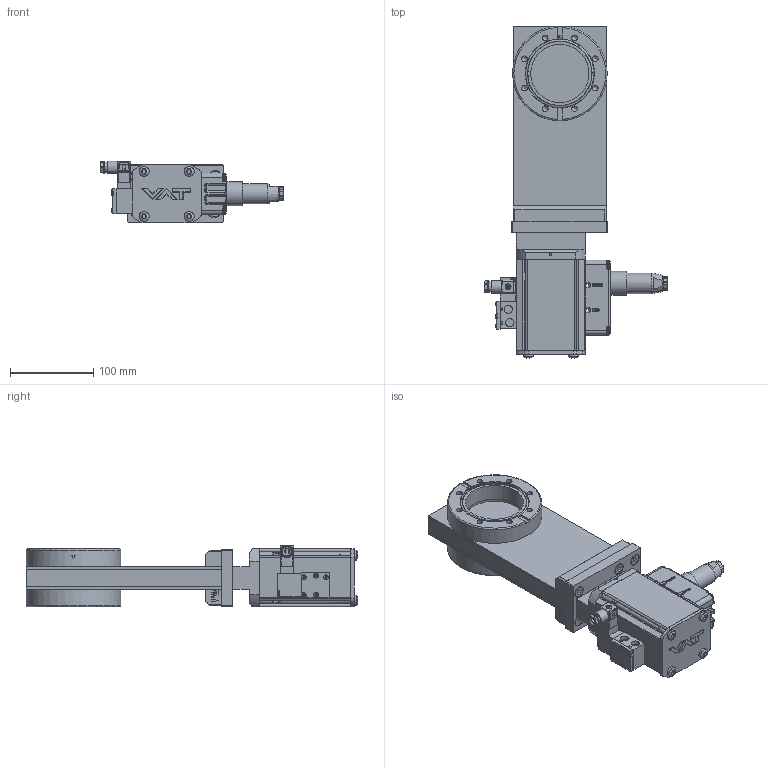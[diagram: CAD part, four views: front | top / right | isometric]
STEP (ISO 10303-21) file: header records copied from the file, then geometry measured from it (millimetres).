
FILE_DESCRIPTION(/* description */ (''),/* implementation_level */ '2;1');
FILE_NAME(/* name */ '1191763328_203.stp',/* time_stamp */ '2021-11-16T07:45:40+01:00',/* author */ (''),/* organization */ (''),/* preprocessor_version */ 'ST-DEVELOPER v16.7',/* originating_system */ 'SIEMENS PLM Software NX 1915',/* authorisation */ '');
FILE_SCHEMA (('AP203_CONFIGURATION_CONTROLLED_3D_DESIGN_OF_MECHANICAL_PARTS_AND_ASSEMBLIES_MIM_LF { 1 0 10303 403 2 1 2}'));
Products named in the file (38): 441451_30286ID; 21436-01.1_30359ID; 21437-01.1_30369ID; 21438-01.1; 441451_30283ID; 21437-01.1_30396ID; 21436-01.1_30257ID; 982213; 467882; 437235; 21450-01.1_30385ID; 21450-01.1; n-6099-454.1; N-7557-016_1.1; N-7557-018.1; N-7557-016_2.1; N-6024-524.1; N-5018-005.1; 70973-01.1; 70988-01.1; n-8504-002; n-6024-548.1; 70987-01.1; N-6024-571.1; 85948-01.1; 94221-01.1; 73002-01.1; 919608; 348352.1; 501138; 218198.1; 22974-r1.2_MODEL; 22973.2_MODEL; N-7557-016_3.1_MODELNX-ARRAGMNTArrangement 1; 94800-r1.7_NX-ARRAGMNTKONFIG1; 790526; 94234-r1.2; 904924
Assembly tree (59 placements, depth 4):
  904924
    218198.1  x6
    94234-r1.2
      73002-01.1  x4
      94221-01.1
      85948-01.1
      N-6024-571.1  x4
    790526
      70987-01.1
      n-6024-548.1  x4
      n-8504-002
      70988-01.1  x2
      70973-01.1
    94800-r1.7_NX-ARRAGMNTKONFIG1
      N-5018-005.1  x2
      N-6024-524.1  x6
      N-7557-016_2.1
      N-7557-018.1
      N-7557-016_1.1
      N-7557-016_3.1_MODELNX-ARRAGMNTArrangement 1
        437235
        467882
        982213
    22973.2_MODEL
      n-6099-454.1  x2
      21450-01.1
      21450-01.1_30385ID
      22974-r1.2_MODEL
        21436-01.1_30257ID
        21437-01.1_30396ID
        441451_30283ID
        21438-01.1
        21437-01.1_30369ID
        21436-01.1_30359ID
        441451_30286ID
    501138
    348352.1
    919608
Bounding box: 220 x 399.07 x 74.53 mm (x, y, z)
Volume: 1199370.3 mm3; surface area: 443933.3 mm2
Topology: 122 solids, 122 shells, 2817 faces, 7355 edges, 5048 vertices
Faces by surface type: plane 1983, cylinder 539, cone 110, torus 107, extrusion 36, sphere 22, bspline 20
Full cylindrical faces by diameter (mm): 0.7 x1, 1.66 x7, 2 x30, 2.125 x1, 2.5 x16, 2.65 x1, 2.8 x2, 3 x13, 3.2 x2, 3.3 x4, 3.4 x4, 3.5 x3, 4 x12, 4.2 x3, 4.22 x1, 4.35 x4, 4.4 x4, 4.45 x4, 4.5 x2, 4.625 x4, 4.75 x8, 5 x8, 5.2 x4, 5.3 x1, 5.4 x1, 5.9 x1, 6 x21, 6.6 x4, 6.66 x6, 6.7 x7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
Entity records: 83954 total; most frequent: CARTESIAN_POINT 22094, ORIENTED_EDGE 11600, DIRECTION 10949, EDGE_CURVE 5800, VERTEX_POINT 4250, VECTOR 3665, AXIS2_PLACEMENT_3D 3642, LINE 3629
